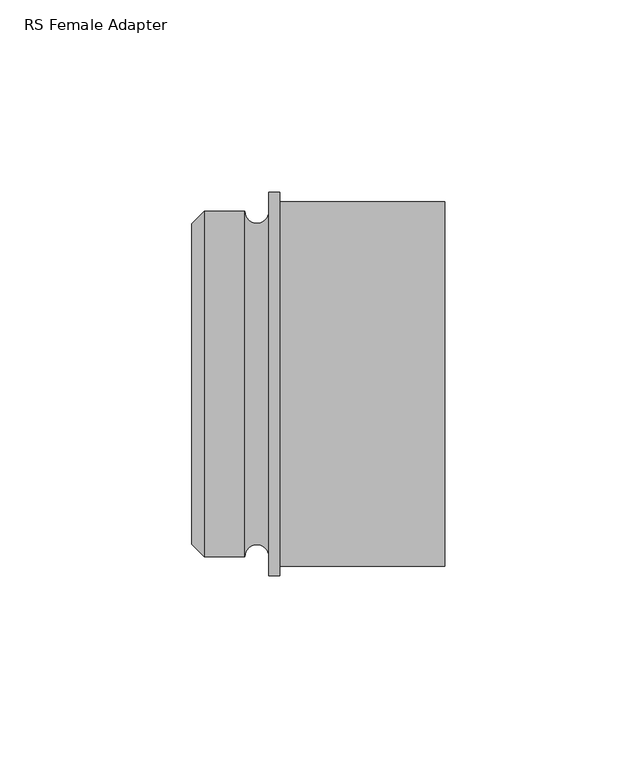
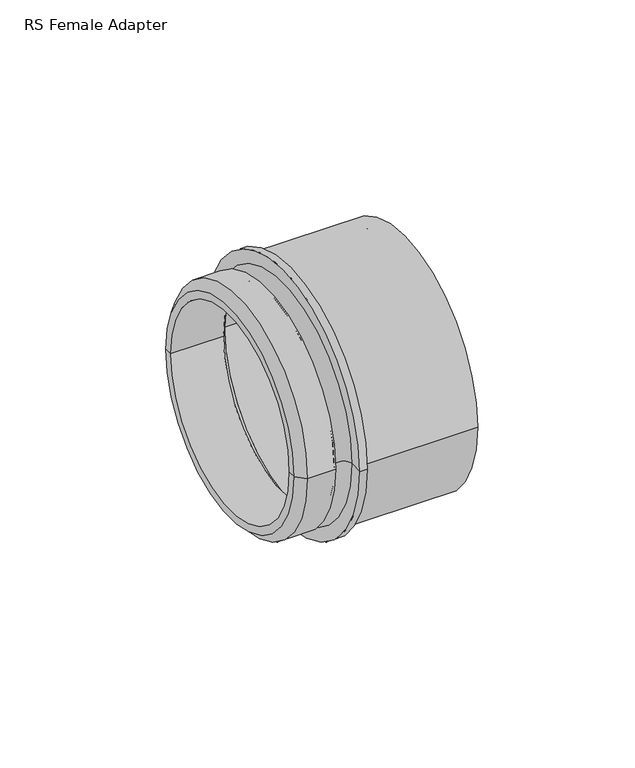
"""IFC4 building model written with IfcOpenShell, lengths in millimetres: pipe fitting geometry, RS Female Adapter : Superpipe RS3 FT Adapter 3”."""

from ifc_helpers import new_model, si_unit, point, frame, origin, place, context, project, spatial, polyline, circle_curve, ellipse_curve, trimmed, source, transform, mapped, element, save
from ifc_brep_helpers import plane_surface, cylinder_surface, revolved_surface, advanced_brep


def rs_female_adapter_dce81887(model_context):
    return source(origin(), model_context, "Body", "AdvancedBrep", [
        advanced_brep(
        [(20.0, -50.0, 0.0), (20.0, 50.0, 0.0), (22.8, 50.0, 0.0), (22.8, -50.0, 0.0), (20.0, -45.0, 0.0), (20.0, 45.0, 0.0), (22.8, 43.0, 0.0), (22.8, -43.0, 0.0), (0.0, -41.8, 0.0), (0.0, 41.8, 0.0), (3.2, 45.0, 0.0), (3.2, -45.0, 0.0), (0.0, -38.8, 0.0), (0.0, 38.8, 0.0), (13.8, -45.0, 0.0), (13.8, 45.0, 0.0), (20.0, -38.8, 0.0), (20.0, 38.8, 0.0)],
        [
            (0, 1, circle_curve(frame((20.0, 0.0, 0.0), z_axis=(1.0, 0.0, 0.0), x_axis=(0.0, 1.0, 0.0)), 50.0)),
            (1, 2),
            (2, 3, circle_curve(frame((22.8, 0.0, 0.0), z_axis=(-1.0, 0.0, 0.0), x_axis=(0.0, 1.0, 0.0)), 50.0)),
            (3, 0),
            (1, 0, circle_curve(frame((20.0, 0.0, 0.0), z_axis=(1.0, 0.0, 0.0), x_axis=(0.0, 1.0, 0.0)), 50.0)),
            (3, 2, circle_curve(frame((22.8, 0.0, 0.0), z_axis=(-1.0, 0.0, 0.0), x_axis=(0.0, 1.0, 0.0)), 50.0)),
            (0, 4),
            (4, 5, circle_curve(frame((20.0, 0.0, 0.0), z_axis=(1.0, 0.0, 0.0), x_axis=(0.0, 1.0, 0.0)), 45.0)),
            (5, 1),
            (5, 4, circle_curve(frame((20.0, 0.0, 0.0), z_axis=(1.0, 0.0, 0.0), x_axis=(0.0, 1.0, 0.0)), 45.0)),
            (2, 6),
            (6, 7, circle_curve(frame((22.8, 0.0, 0.0), z_axis=(-1.0, 0.0, 0.0), x_axis=(0.0, 1.0, 0.0)), 43.0)),
            (7, 3),
            (7, 6, circle_curve(frame((22.8, 0.0, 0.0), z_axis=(-1.0, 0.0, 0.0), x_axis=(0.0, 1.0, 0.0)), 43.0)),
            (8, 9, circle_curve(frame((0.0, 0.0, 0.0), z_axis=(1.0, 0.0, 0.0), x_axis=(0.0, 1.0, 0.0)), 41.8)),
            (9, 10),
            (10, 11, circle_curve(frame((3.2, 0.0, 0.0), z_axis=(-1.0, 0.0, 0.0), x_axis=(0.0, 1.0, 0.0)), 45.0)),
            (11, 8),
            (9, 8, circle_curve(frame((0.0, 0.0, 0.0), z_axis=(1.0, 0.0, 0.0), x_axis=(0.0, 1.0, 0.0)), 41.8)),
            (11, 10, circle_curve(frame((3.2, 0.0, 0.0), z_axis=(-1.0, 0.0, 0.0), x_axis=(0.0, 1.0, 0.0)), 45.0)),
            (8, 12),
            (12, 13, circle_curve(frame((0.0, 0.0, 0.0), z_axis=(1.0, 0.0, 0.0), x_axis=(0.0, 1.0, 0.0)), 38.8)),
            (13, 9),
            (13, 12, circle_curve(frame((0.0, 0.0, 0.0), z_axis=(1.0, 0.0, 0.0), x_axis=(0.0, 1.0, 0.0)), 38.8)),
            (4, 14, circle_curve(frame((16.9, -45.0, 0.0), z_axis=(0.0, 0.0, 1.0), x_axis=(1.0, 0.0, 0.0)), 3.1)),
            (14, 15, circle_curve(frame((13.8, 0.0, 0.0), z_axis=(1.0, 0.0, 0.0), x_axis=(0.0, 1.0, 0.0)), 45.0)),
            (15, 5, circle_curve(frame((16.9, 45.0, 0.0), z_axis=(0.0, 0.0, 1.0), x_axis=(1.0, 0.0, 0.0)), 3.1)),
            (15, 14, circle_curve(frame((13.8, 0.0, 0.0), z_axis=(1.0, 0.0, 0.0), x_axis=(0.0, 1.0, 0.0)), 45.0)),
            (10, 15),
            (14, 11),
            (12, 16),
            (16, 17, circle_curve(frame((20.0, 0.0, 0.0), z_axis=(1.0, 0.0, 0.0), x_axis=(0.0, 1.0, 0.0)), 38.8)),
            (17, 13),
            (17, 16, circle_curve(frame((20.0, 0.0, 0.0), z_axis=(1.0, 0.0, 0.0), x_axis=(0.0, 1.0, 0.0)), 38.8)),
            (16, 7),
            (6, 17),
        ],
        [
            cylinder_surface(frame((1985.8, 0.0, 0.0), z_axis=(-1.0, 0.0, 0.0), x_axis=(0.0, 1.0, 0.0)), 50.0),
            plane_surface(frame((20.0, 0.0, 0.0), z_axis=(-1.0, 0.0, 0.0), x_axis=(0.0, 1.0, 0.0))),
            plane_surface(frame((22.8, 0.0, 0.0), z_axis=(1.0, 0.0, 0.0), x_axis=(0.0, 1.0, 0.0))),
            revolved_surface(polyline([(3.2, 45.0, 0.0), (0.0, 41.8, 0.0)]), (1985.8, 0.0, 0.0), (-1.0, 0.0, 0.0)),
            plane_surface(frame((0.0, 0.0, 0.0), z_axis=(-1.0, 0.0, 0.0), x_axis=(0.0, 1.0, 0.0))),
            revolved_surface(trimmed(ellipse_curve(frame((16.9, 45.0, 0.0), z_axis=(0.0, 0.0, -1.0), x_axis=(1.0, 0.0, 0.0)), 3.1, 3.1), [point((20.0, 45.0, 0.0))], [point((13.8, 45.0, 0.0))], True, "CARTESIAN"), (1985.8, 0.0, 0.0), (-1.0, 0.0, 0.0)),
            cylinder_surface(frame((1985.8, 0.0, 0.0), z_axis=(-1.0, 0.0, 0.0), x_axis=(0.0, 1.0, 0.0)), 45.0),
            revolved_surface(polyline([(0.0, 38.8, 0.0), (20.0, 38.8, 0.0)]), (2012.0, 0.0, 0.0), (-1.0, 0.0, 0.0)),
            revolved_surface(polyline([(20.0, 38.8, 0.0), (22.8, 43.0, 0.0)]), (2012.0, 0.0, 0.0), (-1.0, 0.0, 0.0)),
        ],
        [
            (0, [[1, 2, 3, 4]]),
            (0, [[-2, 5, -4, 6]]),
            (1, [[-1, 7, 8, 9]]),
            (1, [[-5, -9, 10, -7]]),
            (2, [[-3, 11, 12, 13]]),
            (2, [[-6, -13, 14, -11]]),
            (3, [[15, 16, 17, 18]]),
            (3, [[-16, 19, -18, 20]]),
            (4, [[-15, 21, 22, 23]]),
            (4, [[-19, -23, 24, -21]]),
            (5, [[-8, 25, 26, 27]]),
            (5, [[-10, -27, 28, -25]]),
            (6, [[-17, 29, -26, 30]]),
            (6, [[-20, -30, -28, -29]]),
            (7, [[31, 32, 33, -22]]),
            (7, [[-31, -24, -33, 34]]),
            (8, [[-32, 35, -12, 36]]),
            (8, [[-34, -36, -14, -35]]),
        ],
    ),
        advanced_brep(
        [(65.8, -47.5, 0.0), (65.8, 47.5, 0.0), (65.8, 43.0, 0.0), (65.8, -43.0, 0.0), (22.8, 43.0, 0.0), (22.8, -43.0, 0.0), (22.8, 47.5, 0.0), (22.8, -47.5, 0.0)],
        [
            (0, 1, circle_curve(frame((65.8, 0.0, 0.0), z_axis=(1.0, 0.0, 0.0), x_axis=(0.0, 1.0, 0.0)), 47.5)),
            (1, 2),
            (2, 3, circle_curve(frame((65.8, 0.0, 0.0), z_axis=(-1.0, 0.0, 0.0), x_axis=(0.0, 1.0, 0.0)), 43.0)),
            (3, 0),
            (2, 4),
            (4, 5, circle_curve(frame((22.8, 0.0, 0.0), z_axis=(-1.0, 0.0, 0.0), x_axis=(0.0, 1.0, 0.0)), 43.0)),
            (5, 3),
            (4, 6),
            (6, 7, circle_curve(frame((22.8, 0.0, 0.0), z_axis=(-1.0, 0.0, 0.0), x_axis=(0.0, 1.0, 0.0)), 47.5)),
            (7, 5),
            (6, 1),
            (0, 7),
            (6, 7, circle_curve(frame((22.8, 0.0, 0.0), z_axis=(1.0, 0.0, 0.0), x_axis=(0.0, 1.0, 0.0)), 47.5)),
            (0, 1, circle_curve(frame((65.8, 0.0, 0.0), z_axis=(-1.0, 0.0, 0.0), x_axis=(0.0, 1.0, 0.0)), 47.5)),
            (4, 5, circle_curve(frame((22.8, 0.0, 0.0), z_axis=(1.0, 0.0, 0.0), x_axis=(0.0, 1.0, 0.0)), 43.0)),
            (2, 3, circle_curve(frame((65.8, 0.0, 0.0), z_axis=(1.0, 0.0, 0.0), x_axis=(0.0, 1.0, 0.0)), 43.0)),
        ],
        [
            plane_surface(frame((65.8, 0.0, 0.0), z_axis=(1.0, 0.0, 0.0), x_axis=(0.0, 1.0, 0.0))),
            revolved_surface(polyline([(22.799999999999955, 43.0, 0.0), (65.79999999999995, 43.0, 0.0)]), (2021.0, 0.0, 0.0), (-1.0, 0.0, 0.0)),
            plane_surface(frame((22.8, 0.0, 0.0), z_axis=(-1.0, 0.0, 0.0), x_axis=(0.0, 1.0, 0.0))),
            cylinder_surface(frame((2021.0, 0.0, 0.0), z_axis=(-1.0, 0.0, 0.0), x_axis=(0.0, 1.0, 0.0)), 47.5),
        ],
        [
            (0, [[1, 2, 3, 4]]),
            (1, [[-3, 5, 6, 7]]),
            (2, [[-6, 8, 9, 10]]),
            (3, [[-9, 11, -1, 12]]),
            (3, [[13, -12, 14, -11]]),
            (2, [[15, -10, -13, -8]]),
            (1, [[16, -7, -15, -5]]),
            (0, [[-14, -4, -16, -2]]),
        ],
    ),
    ])


if __name__ == "__main__":
    model = new_model("IFC4")
    model_context = context("Model", 3, world=origin())
    ifc_project = project(units=[si_unit("LENGTHUNIT", "METRE", prefix="MILLI")], contexts=[model_context])
    site = spatial("IfcSite", under=ifc_project)
    building = spatial("IfcBuilding", under=site)
    placement = place(None, origin())
    rs_female_adapter_shape = rs_female_adapter_dce81887(model_context)
    element("IfcPipeFitting", 1, ObjectType="RS Female Adapter : Superpipe RS3 FT Adapter 3”", at=placement, inside=building, context=model_context, shape_type="MappedRepresentation", body=[
        mapped(rs_female_adapter_shape, transform((0.0, 0.0, 0.0), x_axis=(1.0, 0.0, 0.0), y_axis=(0.0, 1.0, 0.0), z_axis=(0.0, 0.0, 1.0))),
    ])
    save(model, "model.ifc")
